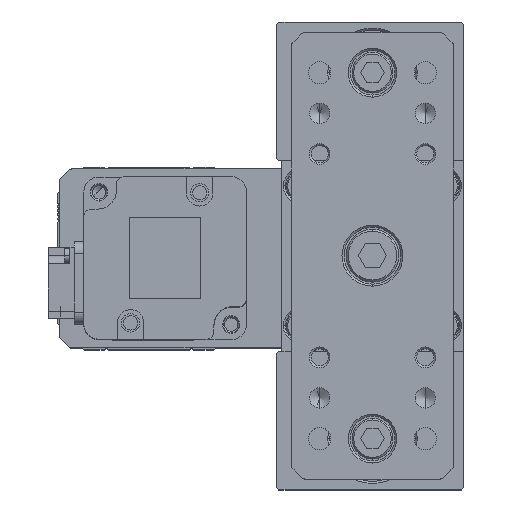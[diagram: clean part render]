
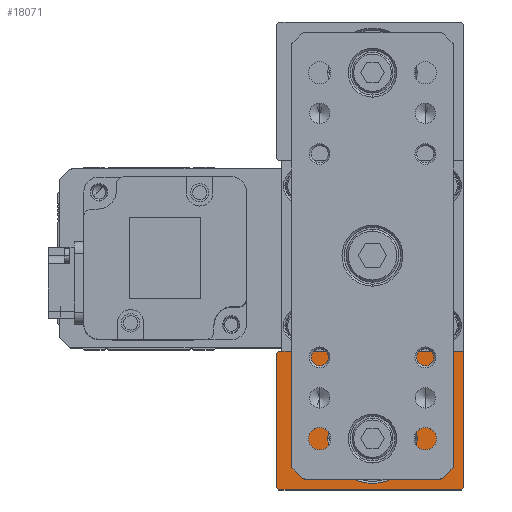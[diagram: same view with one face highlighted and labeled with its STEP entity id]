
A CAD part, top view. The second image highlights one B-rep face of the part: STEP entity #18071.
In plain terms, the highlighted planar face has unit normal (0, 0, 1).
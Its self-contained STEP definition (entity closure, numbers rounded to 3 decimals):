
#563 = ORIENTED_EDGE ( 'NONE', *, *, #29281, .T. ) ;
#767 = EDGE_CURVE ( 'NONE', #30987, #25592, #26354, .T. ) ;
#1572 = ORIENTED_EDGE ( 'NONE', *, *, #8199, .T. ) ;
#2931 = DIRECTION ( 'NONE',  ( -1., 0., 0. ) ) ;
#3467 = ORIENTED_EDGE ( 'NONE', *, *, #34109, .T. ) ;
#3475 = VERTEX_POINT ( 'NONE', #17714 ) ;
#4691 = CARTESIAN_POINT ( 'NONE',  ( 22.5, -57.5, 361. ) ) ;
#5997 = CARTESIAN_POINT ( 'NONE',  ( 11., -45., 361. ) ) ;
#7267 = VECTOR ( 'NONE', #10485, 1000. ) ;
#7368 = CARTESIAN_POINT ( 'NONE',  ( -11., -45., 361. ) ) ;
#7524 = VERTEX_POINT ( 'NONE', #10167 ) ;
#7674 = VERTEX_POINT ( 'NONE', #37364 ) ;
#7692 = DIRECTION ( 'NONE',  ( 0.707, -0.707, 0. ) ) ;
#7830 = CARTESIAN_POINT ( 'NONE',  ( -23.5, -57.5, 361. ) ) ;
#8199 = EDGE_CURVE ( 'NONE', #3475, #30261, #15142, .T. ) ;
#9145 = EDGE_CURVE ( 'NONE', #20091, #3475, #12289, .T. ) ;
#9211 = CARTESIAN_POINT ( 'NONE',  ( 0., -45., 361. ) ) ;
#9999 = EDGE_LOOP ( 'NONE', ( #3467, #14229 ) ) ;
#10167 = CARTESIAN_POINT ( 'NONE',  ( -23.5, -57., 361. ) ) ;
#10485 = DIRECTION ( 'NONE',  ( -1., 0., 0. ) ) ;
#11128 = VECTOR ( 'NONE', #7692, 1000. ) ;
#11305 = CARTESIAN_POINT ( 'NONE',  ( 22., -57.5, 361. ) ) ;
#11367 = VECTOR ( 'NONE', #33373, 1000. ) ;
#11591 = EDGE_CURVE ( 'NONE', #37147, #20091, #23158, .T. ) ;
#12183 = DIRECTION ( 'NONE',  ( -1., 0., 0. ) ) ;
#12256 = DIRECTION ( 'NONE',  ( -1., 0., 0. ) ) ;
#12289 = LINE ( 'NONE', #18808, #11367 ) ;
#13475 = PLANE ( 'NONE',  #28348 ) ;
#13609 = DIRECTION ( 'NONE',  ( 0., 0., -1. ) ) ;
#14229 = ORIENTED_EDGE ( 'NONE', *, *, #767, .T. ) ;
#14539 = VECTOR ( 'NONE', #12256, 1000. ) ;
#14780 = ORIENTED_EDGE ( 'NONE', *, *, #36558, .T. ) ;
#14919 = EDGE_CURVE ( 'NONE', #7524, #7674, #20622, .T. ) ;
#15142 = LINE ( 'NONE', #22184, #7267 ) ;
#15290 = CARTESIAN_POINT ( 'NONE',  ( 22.5, -57., 361. ) ) ;
#17714 = CARTESIAN_POINT ( 'NONE',  ( 22.5, -23.5, 361. ) ) ;
#17925 = VECTOR ( 'NONE', #26138, 1000. ) ;
#18071 = ADVANCED_FACE ( 'NONE', ( #23186, #37902 ), #13475, .F. ) ;
#18808 = CARTESIAN_POINT ( 'NONE',  ( 22.5, -57.5, 361. ) ) ;
#19104 = ORIENTED_EDGE ( 'NONE', *, *, #31359, .F. ) ;
#19412 = CARTESIAN_POINT ( 'NONE',  ( -23., -57.5, 361. ) ) ;
#20091 = VERTEX_POINT ( 'NONE', #15290 ) ;
#20199 = CIRCLE ( 'NONE', #27131, 11. ) ;
#20610 = DIRECTION ( 'NONE',  ( 0., 0., -1. ) ) ;
#20622 = LINE ( 'NONE', #7830, #27422 ) ;
#22176 = CARTESIAN_POINT ( 'NONE',  ( 22., -57.5, 361. ) ) ;
#22184 = CARTESIAN_POINT ( 'NONE',  ( 22.5, -23.5, 361. ) ) ;
#22858 = CARTESIAN_POINT ( 'NONE',  ( -23., -23.5, 361. ) ) ;
#23158 = LINE ( 'NONE', #11305, #36924 ) ;
#23186 = FACE_BOUND ( 'NONE', #9999, .T. ) ;
#23909 = CARTESIAN_POINT ( 'NONE',  ( 22.5, -57.5, 361. ) ) ;
#25592 = VERTEX_POINT ( 'NONE', #5997 ) ;
#25608 = EDGE_LOOP ( 'NONE', ( #19104, #31700, #34389, #1572, #563, #36128, #14780 ) ) ;
#25640 = VERTEX_POINT ( 'NONE', #26675 ) ;
#25665 = LINE ( 'NONE', #37848, #17925 ) ;
#25916 = DIRECTION ( 'NONE',  ( 0.707, 0.707, 0. ) ) ;
#26138 = DIRECTION ( 'NONE',  ( -0.707, -0.707, 0. ) ) ;
#26354 = CIRCLE ( 'NONE', #36297, 11. ) ;
#26675 = CARTESIAN_POINT ( 'NONE',  ( -23., -57.5, 361. ) ) ;
#27131 = AXIS2_PLACEMENT_3D ( 'NONE', #9211, #29700, #12183 ) ;
#27422 = VECTOR ( 'NONE', #31285, 1000. ) ;
#27620 = LINE ( 'NONE', #19412, #11128 ) ;
#28348 = AXIS2_PLACEMENT_3D ( 'NONE', #4691, #13609, #34123 ) ;
#29281 = EDGE_CURVE ( 'NONE', #30261, #7674, #25665, .T. ) ;
#29700 = DIRECTION ( 'NONE',  ( 0., 0., -1. ) ) ;
#30063 = LINE ( 'NONE', #23909, #14539 ) ;
#30261 = VERTEX_POINT ( 'NONE', #22858 ) ;
#30987 = VERTEX_POINT ( 'NONE', #7368 ) ;
#31285 = DIRECTION ( 'NONE',  ( 0., 1., 0. ) ) ;
#31359 = EDGE_CURVE ( 'NONE', #37147, #25640, #30063, .T. ) ;
#31700 = ORIENTED_EDGE ( 'NONE', *, *, #11591, .T. ) ;
#33373 = DIRECTION ( 'NONE',  ( 0., 1., 0. ) ) ;
#34109 = EDGE_CURVE ( 'NONE', #25592, #30987, #20199, .T. ) ;
#34123 = DIRECTION ( 'NONE',  ( -1., 0., 0. ) ) ;
#34389 = ORIENTED_EDGE ( 'NONE', *, *, #9145, .T. ) ;
#36128 = ORIENTED_EDGE ( 'NONE', *, *, #14919, .F. ) ;
#36297 = AXIS2_PLACEMENT_3D ( 'NONE', #38189, #20610, #2931 ) ;
#36558 = EDGE_CURVE ( 'NONE', #7524, #25640, #27620, .T. ) ;
#36924 = VECTOR ( 'NONE', #25916, 1000. ) ;
#37147 = VERTEX_POINT ( 'NONE', #22176 ) ;
#37364 = CARTESIAN_POINT ( 'NONE',  ( -23.5, -24., 361. ) ) ;
#37848 = CARTESIAN_POINT ( 'NONE',  ( -23.5, -24., 361. ) ) ;
#37902 = FACE_OUTER_BOUND ( 'NONE', #25608, .T. ) ;
#38189 = CARTESIAN_POINT ( 'NONE',  ( 0., -45., 361. ) ) ;
